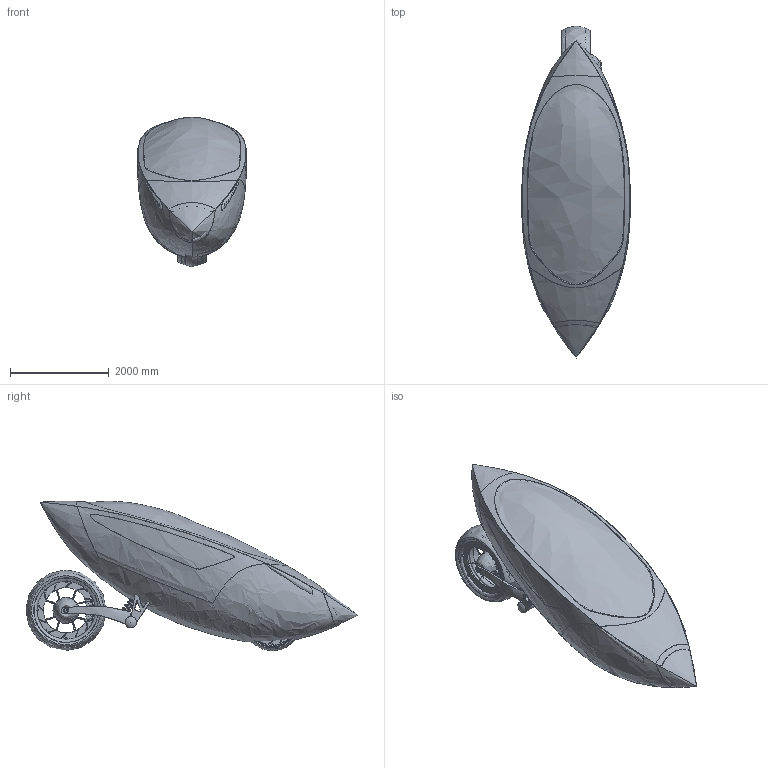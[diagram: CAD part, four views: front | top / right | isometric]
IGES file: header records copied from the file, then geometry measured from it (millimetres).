
Start section:  Autodesk Maya version 8.5 IGES version 5.3
Global section: file name: C:/Documents and Settings/gabor/Asztal/Grabster/Twostar/redstar.iges; native system: Autodesk Maya V8.5; preprocessor: 8.5; author: gabor; organization: Unknown; date: 20120415.211121; units: centimetre
Bounding box: 2204.55 x 6738.02 x 3034.52 mm (x, y, z)
Surface area: 128791691.8 mm2 (no closed solid volume)
Topology: 0 solids, 0 shells, 840 faces, 11170 edges, 10760 vertices
Faces by surface type: bspline 840
